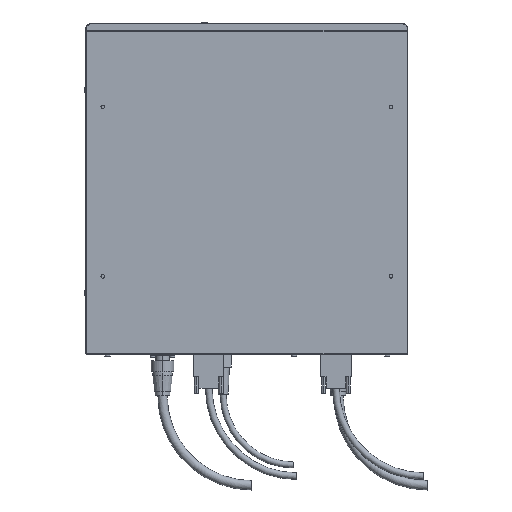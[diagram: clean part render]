
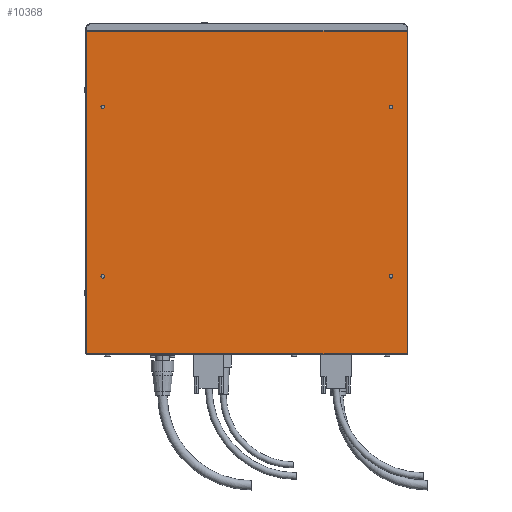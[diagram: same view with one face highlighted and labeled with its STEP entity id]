
A CAD part, left-side view. The second image highlights one B-rep face of the part: STEP entity #10368.
In plain terms, the highlighted planar face has unit normal (-1, 0, 0).
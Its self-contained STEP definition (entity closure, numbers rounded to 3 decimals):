
#728 = DIRECTION ( 'NONE',  ( 0., -1., 0. ) ) ;
#967 = CIRCLE ( 'NONE', #34202, 2.1 ) ;
#1221 = CIRCLE ( 'NONE', #6133, 2.1 ) ;
#1689 = AXIS2_PLACEMENT_3D ( 'NONE', #36151, #6870, #3600 ) ;
#2122 = FACE_BOUND ( 'NONE', #34157, .T. ) ;
#2151 = DIRECTION ( 'NONE',  ( 0., 1., 0. ) ) ;
#2239 = VECTOR ( 'NONE', #728, 1000. ) ;
#2404 = DIRECTION ( 'NONE',  ( 0., 0., -1. ) ) ;
#2434 = EDGE_LOOP ( 'NONE', ( #15549, #10226 ) ) ;
#2868 = EDGE_CURVE ( 'NONE', #7440, #28474, #30446, .T. ) ;
#3366 = AXIS2_PLACEMENT_3D ( 'NONE', #26191, #37564, #16758 ) ;
#3600 = DIRECTION ( 'NONE',  ( 0., 0., 1. ) ) ;
#4020 = CIRCLE ( 'NONE', #28634, 2.1 ) ;
#4429 = FACE_OUTER_BOUND ( 'NONE', #24810, .T. ) ;
#4843 = VECTOR ( 'NONE', #2151, 1000. ) ;
#4911 = CARTESIAN_POINT ( 'NONE',  ( -125., 20., -290. ) ) ;
#4981 = EDGE_LOOP ( 'NONE', ( #31023, #5850 ) ) ;
#5850 = ORIENTED_EDGE ( 'NONE', *, *, #9138, .F. ) ;
#6052 = VERTEX_POINT ( 'NONE', #21728 ) ;
#6133 = AXIS2_PLACEMENT_3D ( 'NONE', #34902, #13521, #26033 ) ;
#6139 = VERTEX_POINT ( 'NONE', #22626 ) ;
#6171 = DIRECTION ( 'NONE',  ( 0., 0., 1. ) ) ;
#6255 = VERTEX_POINT ( 'NONE', #16605 ) ;
#6488 = CIRCLE ( 'NONE', #29258, 2.1 ) ;
#6492 = LINE ( 'NONE', #8997, #2239 ) ;
#6533 = DIRECTION ( 'NONE',  ( 0., 0., 1. ) ) ;
#6870 = DIRECTION ( 'NONE',  ( -1., 0., 0. ) ) ;
#7109 = CARTESIAN_POINT ( 'NONE',  ( -125., 360., -290. ) ) ;
#7440 = VERTEX_POINT ( 'NONE', #28200 ) ;
#7877 = EDGE_CURVE ( 'NONE', #27519, #6255, #37207, .T. ) ;
#7981 = AXIS2_PLACEMENT_3D ( 'NONE', #19673, #37024, #34147 ) ;
#8354 = ORIENTED_EDGE ( 'NONE', *, *, #32676, .F. ) ;
#8884 = ORIENTED_EDGE ( 'NONE', *, *, #25339, .T. ) ;
#8997 = CARTESIAN_POINT ( 'NONE',  ( -125., 380., -381. ) ) ;
#9094 = CARTESIAN_POINT ( 'NONE',  ( -125., 20., -292.1 ) ) ;
#9107 = EDGE_CURVE ( 'NONE', #6052, #6139, #24591, .T. ) ;
#9138 = EDGE_CURVE ( 'NONE', #14159, #37840, #1221, .T. ) ;
#9924 = EDGE_CURVE ( 'NONE', #6255, #28559, #20296, .T. ) ;
#10226 = ORIENTED_EDGE ( 'NONE', *, *, #26260, .F. ) ;
#10368 = ADVANCED_FACE ( 'NONE', ( #19447, #25620, #2122, #16568, #4429 ), #37363, .F. ) ;
#10859 = CARTESIAN_POINT ( 'NONE',  ( -125., 360., -287.9 ) ) ;
#11247 = CARTESIAN_POINT ( 'NONE',  ( -125., 379., -382. ) ) ;
#12296 = EDGE_CURVE ( 'NONE', #37840, #14159, #21967, .T. ) ;
#12763 = ORIENTED_EDGE ( 'NONE', *, *, #9924, .T. ) ;
#13004 = DIRECTION ( 'NONE',  ( 0., 0., 1. ) ) ;
#13207 = ORIENTED_EDGE ( 'NONE', *, *, #26327, .F. ) ;
#13521 = DIRECTION ( 'NONE',  ( -1., 0., 0. ) ) ;
#14042 = ORIENTED_EDGE ( 'NONE', *, *, #2868, .F. ) ;
#14122 = ORIENTED_EDGE ( 'NONE', *, *, #24556, .F. ) ;
#14159 = VERTEX_POINT ( 'NONE', #26530 ) ;
#14853 = LINE ( 'NONE', #30054, #18117 ) ;
#15021 = VERTEX_POINT ( 'NONE', #31650 ) ;
#15549 = ORIENTED_EDGE ( 'NONE', *, *, #9107, .F. ) ;
#16310 = VECTOR ( 'NONE', #2404, 1000. ) ;
#16568 = FACE_BOUND ( 'NONE', #18662, .T. ) ;
#16605 = CARTESIAN_POINT ( 'NONE',  ( -125., 379., -1. ) ) ;
#16758 = DIRECTION ( 'NONE',  ( 0., 0., 1. ) ) ;
#18117 = VECTOR ( 'NONE', #35663, 1000. ) ;
#18662 = EDGE_LOOP ( 'NONE', ( #13207, #14042 ) ) ;
#18960 = CARTESIAN_POINT ( 'NONE',  ( -125., 20., -87.9 ) ) ;
#19447 = FACE_BOUND ( 'NONE', #2434, .T. ) ;
#19673 = CARTESIAN_POINT ( 'NONE',  ( -125., 360., -90. ) ) ;
#20296 = LINE ( 'NONE', #11247, #16310 ) ;
#20327 = CARTESIAN_POINT ( 'NONE',  ( -125., 20., -287.9 ) ) ;
#20984 = CARTESIAN_POINT ( 'NONE',  ( -125., 20., -290. ) ) ;
#21023 = CIRCLE ( 'NONE', #34588, 2.1 ) ;
#21728 = CARTESIAN_POINT ( 'NONE',  ( -125., 360., -87.9 ) ) ;
#21954 = DIRECTION ( 'NONE',  ( 1., 0., 0. ) ) ;
#21967 = CIRCLE ( 'NONE', #1689, 2.1 ) ;
#22133 = CARTESIAN_POINT ( 'NONE',  ( -125., 1., -1. ) ) ;
#22474 = AXIS2_PLACEMENT_3D ( 'NONE', #31200, #21954, #36600 ) ;
#22604 = ORIENTED_EDGE ( 'NONE', *, *, #7877, .T. ) ;
#22626 = CARTESIAN_POINT ( 'NONE',  ( -125., 360., -92.1 ) ) ;
#24556 = EDGE_CURVE ( 'NONE', #31711, #32320, #4020, .T. ) ;
#24591 = CIRCLE ( 'NONE', #7981, 2.1 ) ;
#24810 = EDGE_LOOP ( 'NONE', ( #22604, #12763, #26164, #8884 ) ) ;
#24827 = DIRECTION ( 'NONE',  ( 0., 0., 1. ) ) ;
#25339 = EDGE_CURVE ( 'NONE', #15021, #27519, #14853, .T. ) ;
#25620 = FACE_BOUND ( 'NONE', #4981, .T. ) ;
#25894 = CARTESIAN_POINT ( 'NONE',  ( -125., 379., -381. ) ) ;
#26033 = DIRECTION ( 'NONE',  ( 0., 0., 1. ) ) ;
#26164 = ORIENTED_EDGE ( 'NONE', *, *, #26628, .T. ) ;
#26191 = CARTESIAN_POINT ( 'NONE',  ( -125., 360., -290. ) ) ;
#26260 = EDGE_CURVE ( 'NONE', #6139, #6052, #6488, .T. ) ;
#26327 = EDGE_CURVE ( 'NONE', #28474, #7440, #967, .T. ) ;
#26530 = CARTESIAN_POINT ( 'NONE',  ( -125., 20., -92.1 ) ) ;
#26628 = EDGE_CURVE ( 'NONE', #28559, #15021, #6492, .T. ) ;
#27519 = VERTEX_POINT ( 'NONE', #22133 ) ;
#28096 = DIRECTION ( 'NONE',  ( -1., 0., 0. ) ) ;
#28200 = CARTESIAN_POINT ( 'NONE',  ( -125., 360., -292.1 ) ) ;
#28474 = VERTEX_POINT ( 'NONE', #10859 ) ;
#28533 = CARTESIAN_POINT ( 'NONE',  ( -125., 380., -1. ) ) ;
#28559 = VERTEX_POINT ( 'NONE', #25894 ) ;
#28634 = AXIS2_PLACEMENT_3D ( 'NONE', #4911, #33823, #13004 ) ;
#29258 = AXIS2_PLACEMENT_3D ( 'NONE', #29836, #36207, #6533 ) ;
#29836 = CARTESIAN_POINT ( 'NONE',  ( -125., 360., -90. ) ) ;
#30054 = CARTESIAN_POINT ( 'NONE',  ( -125., 1., 0. ) ) ;
#30446 = CIRCLE ( 'NONE', #3366, 2.1 ) ;
#31023 = ORIENTED_EDGE ( 'NONE', *, *, #12296, .F. ) ;
#31200 = CARTESIAN_POINT ( 'NONE',  ( -125., 380., 0. ) ) ;
#31650 = CARTESIAN_POINT ( 'NONE',  ( -125., 1., -381. ) ) ;
#31711 = VERTEX_POINT ( 'NONE', #20327 ) ;
#32320 = VERTEX_POINT ( 'NONE', #9094 ) ;
#32561 = DIRECTION ( 'NONE',  ( -1., 0., 0. ) ) ;
#32676 = EDGE_CURVE ( 'NONE', #32320, #31711, #21023, .T. ) ;
#33823 = DIRECTION ( 'NONE',  ( -1., 0., 0. ) ) ;
#34147 = DIRECTION ( 'NONE',  ( 0., 0., 1. ) ) ;
#34157 = EDGE_LOOP ( 'NONE', ( #14122, #8354 ) ) ;
#34202 = AXIS2_PLACEMENT_3D ( 'NONE', #7109, #28096, #24827 ) ;
#34588 = AXIS2_PLACEMENT_3D ( 'NONE', #20984, #32561, #6171 ) ;
#34902 = CARTESIAN_POINT ( 'NONE',  ( -125., 20., -90. ) ) ;
#35663 = DIRECTION ( 'NONE',  ( 0., 0., 1. ) ) ;
#36151 = CARTESIAN_POINT ( 'NONE',  ( -125., 20., -90. ) ) ;
#36207 = DIRECTION ( 'NONE',  ( -1., 0., 0. ) ) ;
#36600 = DIRECTION ( 'NONE',  ( 0., 0., -1. ) ) ;
#37024 = DIRECTION ( 'NONE',  ( -1., 0., 0. ) ) ;
#37207 = LINE ( 'NONE', #28533, #4843 ) ;
#37363 = PLANE ( 'NONE',  #22474 ) ;
#37564 = DIRECTION ( 'NONE',  ( -1., 0., 0. ) ) ;
#37840 = VERTEX_POINT ( 'NONE', #18960 ) ;
